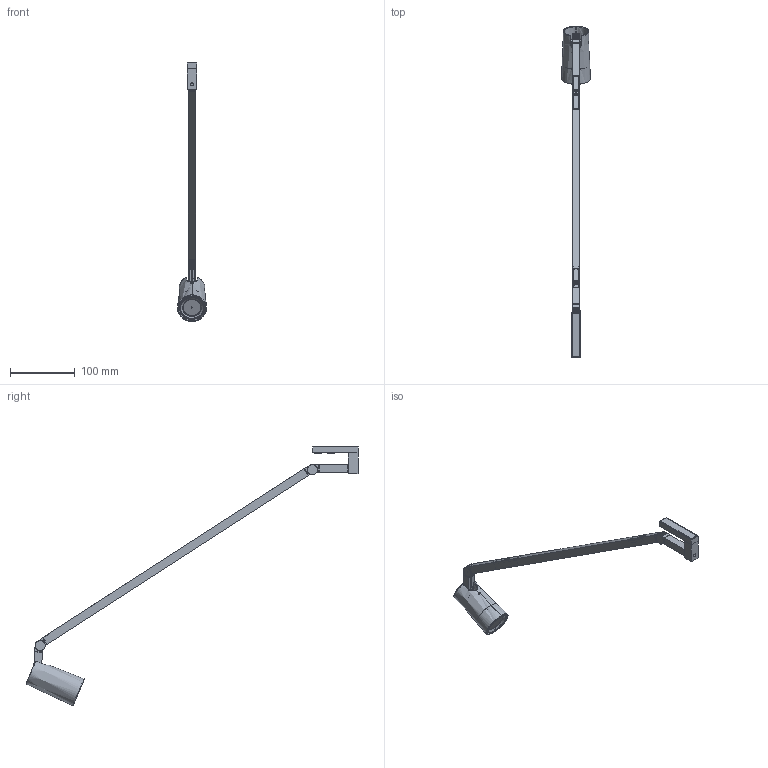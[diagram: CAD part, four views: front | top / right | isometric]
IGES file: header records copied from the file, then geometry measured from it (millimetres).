
Start section: SolidWorks IGES file using analytic representation for surfaces
Global section: file name: C:\Users\MarcoErba\Desktop\800UNTLNN161_UNTITLED MINI SPOT WALL.IGS; native system: SolidWorks 2016; preprocessor: SolidWorks 2016; author: MarcoErba; date: 230120.163553; units: millimetre
Bounding box: 44.96 x 512.67 x 400.41 mm (x, y, z)
Surface area: 90456.9 mm2 (no closed solid volume)
Topology: 0 solids, 0 shells, 1728 faces, 17686 edges, 17668 vertices
Faces by surface type: bspline 1063, revolution 665
